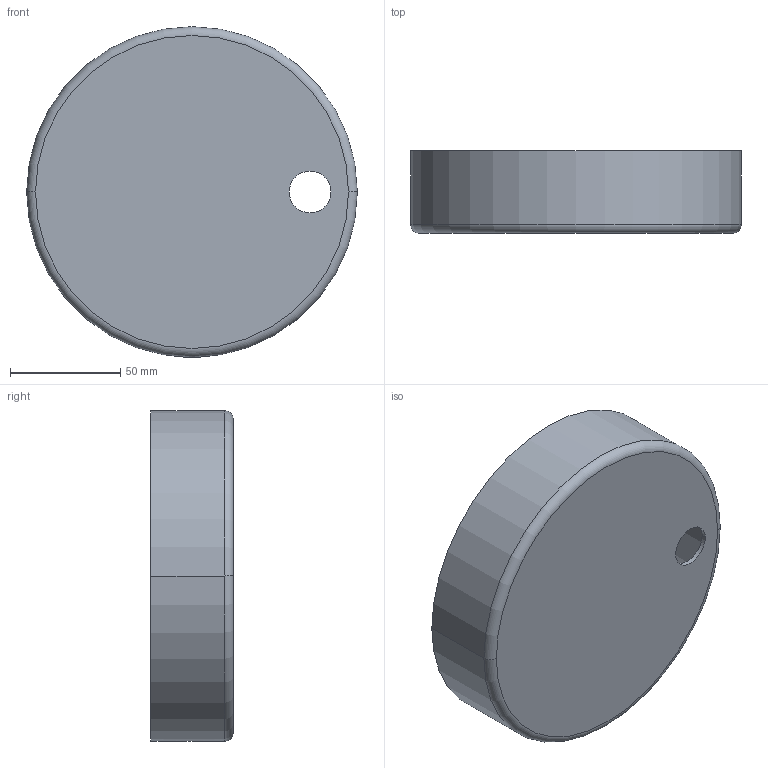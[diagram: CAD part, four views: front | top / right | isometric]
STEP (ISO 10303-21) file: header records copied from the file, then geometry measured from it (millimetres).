
FILE_DESCRIPTION((''),'2;1');
FILE_NAME('POWER-COVER','2023-03-18T11:38:22',('Administrator'),(''),'CREO PARAMETRIC BY PTC INC, 2020053','CREO PARAMETRIC BY PTC INC, 2020053','');
FILE_SCHEMA(('CONFIG_CONTROL_DESIGN','SHAPE_APPEARANCE_LAYERS_GROUPS'));
Length unit declared in the file: millimetre
Products named in the file (1): POWER-COVER
Bounding box: 150 x 37.4 x 150 mm (x, y, z)
Volume: 66400.1 mm3; surface area: 67504.5 mm2
Topology: 1 solids, 1 shells, 16 faces, 34 edges, 20 vertices
Faces by surface type: cylinder 6, plane 4, torus 4, bspline 2
Entity records: 680 total; most frequent: CARTESIAN_POINT 262, DIRECTION 78, ORIENTED_EDGE 68, AXIS2_PLACEMENT_3D 34, EDGE_CURVE 34, VERTEX_POINT 20, EDGE_LOOP 20, CIRCLE 20
